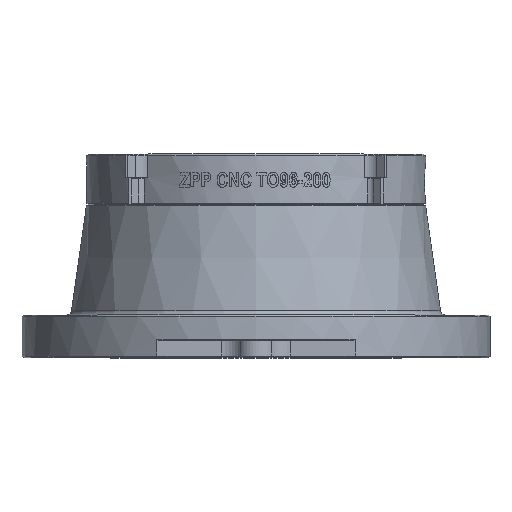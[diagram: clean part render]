
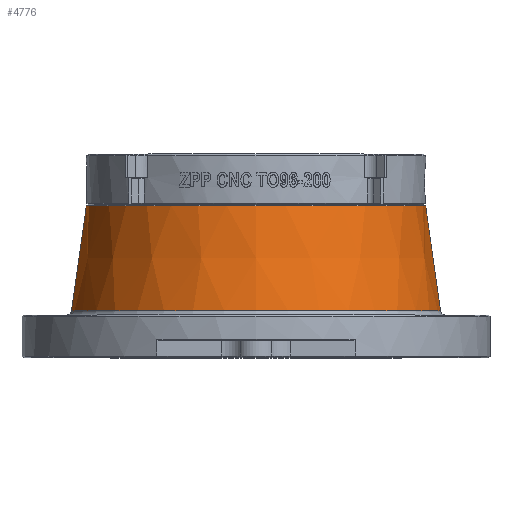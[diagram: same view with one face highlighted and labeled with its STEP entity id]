
A CAD part, top view. The second image highlights one B-rep face of the part: STEP entity #4776.
In plain terms, the highlighted conical face has half-angle 8 degrees and reference radius 104.421 mm.
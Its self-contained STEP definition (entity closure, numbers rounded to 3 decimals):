
#1311=DIRECTION('',(-0.139,-0.99,0.));
#1312=VECTOR('',#1311,62.531);
#1313=CARTESIAN_POINT('',(-100.07,89.505,
0.));
#1314=LINE('',#1313,#1312);
#1429=CARTESIAN_POINT('',(0.,89.505,0.));
#1430=DIRECTION('',(0.,-1.,0.));
#1431=DIRECTION('',(1.,0.,0.));
#1432=AXIS2_PLACEMENT_3D('',#1429,#1430,#1431);
#1434=CARTESIAN_POINT('',(0.,89.505,0.));
#1435=DIRECTION('',(0.,-1.,0.));
#1436=DIRECTION('',(0.,0.,1.));
#1437=AXIS2_PLACEMENT_3D('',#1434,#1435,#1436);
#1443=DIRECTION('',(0.139,-0.99,0.));
#1444=VECTOR('',#1443,62.531);
#1445=CARTESIAN_POINT('',(100.07,89.505,
0.));
#1446=LINE('',#1445,#1444);
#1447=CARTESIAN_POINT('',(0.,27.582,0.));
#1448=DIRECTION('',(0.,1.,0.));
#1449=DIRECTION('',(-1.,0.,0.));
#1450=AXIS2_PLACEMENT_3D('',#1447,#1448,#1449);
#1452=CARTESIAN_POINT('',(0.,27.582,0.));
#1453=DIRECTION('',(0.,1.,0.));
#1454=DIRECTION('',(-1.,0.,0.002));
#1455=AXIS2_PLACEMENT_3D('',#1452,#1453,#1454);
#2847=CARTESIAN_POINT('',(-108.772,27.582,0.));
#2849=VERTEX_POINT('',#2847);
#2850=CARTESIAN_POINT('',(108.772,27.582,
0.));
#2851=VERTEX_POINT('',#2850);
#2853=CARTESIAN_POINT('',(100.07,89.505,
0.));
#2855=VERTEX_POINT('',#2853);
#2856=CARTESIAN_POINT('',(-100.07,89.505,
0.));
#2857=VERTEX_POINT('',#2856);
#2934=CARTESIAN_POINT('',(0.,89.505,
100.07));
#2935=VERTEX_POINT('',#2934);
#2936=CARTESIAN_POINT('',(-108.772,27.582,
0.168));
#2937=VERTEX_POINT('',#2936);
#4761=CARTESIAN_POINT('',(0.,58.544,0.));
#4762=DIRECTION('',(0.,-1.,0.));
#4763=DIRECTION('',(-1.,0.,0.));
#4764=AXIS2_PLACEMENT_3D('',#4761,#4762,#4763);
#4765=CONICAL_SURFACE('',#4764,104.421,8.);
#4766=ORIENTED_EDGE('',*,*,#4755,.F.);
#4767=ORIENTED_EDGE('',*,*,#4753,.F.);
#4768=ORIENTED_EDGE('',*,*,#4662,.T.);
#4770=ORIENTED_EDGE('',*,*,#4769,.F.);
#4772=ORIENTED_EDGE('',*,*,#4771,.F.);
#4773=ORIENTED_EDGE('',*,*,#4658,.F.);
#4774=EDGE_LOOP('',(#4766,#4767,#4768,#4770,#4772,#4773));
#4775=FACE_OUTER_BOUND('',#4774,.F.);
#4776=ADVANCED_FACE('',(#4775),#4765,.T.);
#1433=CIRCLE('',#1432,100.07);
#1438=CIRCLE('',#1437,100.07);
#1451=CIRCLE('',#1450,108.772);
#1456=CIRCLE('',#1455,108.772);
#4658=EDGE_CURVE('',#2857,#2849,#1314,.T.);
#4662=EDGE_CURVE('',#2855,#2851,#1446,.T.);
#4753=EDGE_CURVE('',#2855,#2935,#1433,.T.);
#4755=EDGE_CURVE('',#2935,#2857,#1438,.T.);
#4769=EDGE_CURVE('',#2937,#2851,#1456,.T.);
#4771=EDGE_CURVE('',#2849,#2937,#1451,.T.);
